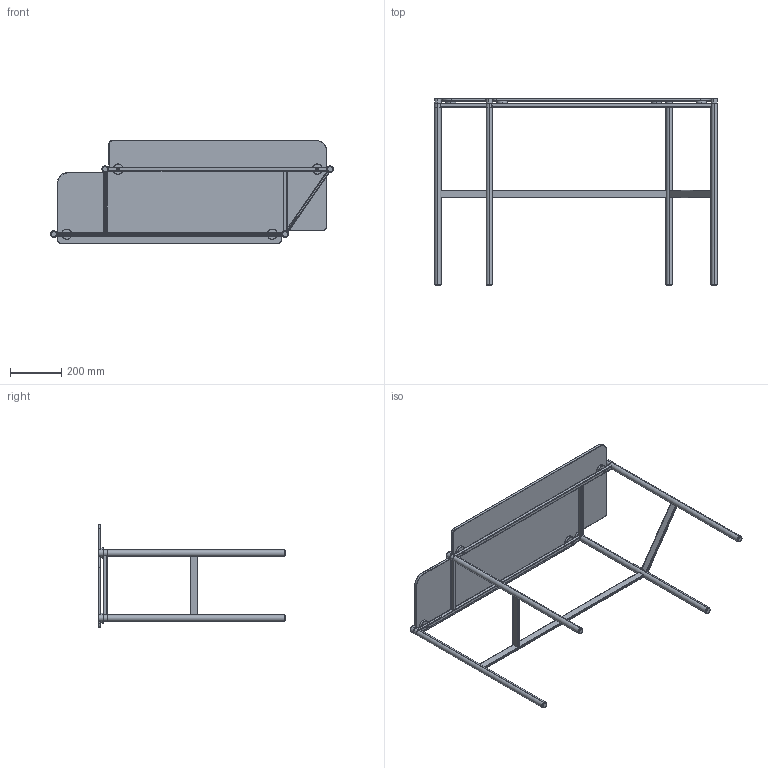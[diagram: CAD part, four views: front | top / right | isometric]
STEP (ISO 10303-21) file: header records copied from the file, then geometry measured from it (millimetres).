
FILE_DESCRIPTION(/* description */ (''),/* implementation_level */ '2;1');
FILE_NAME(/* name */ 'FG52002_GLASS SHELF',/* time_stamp */ '2020-09-29T12:23:56+02:00',/* author */ (''),/* organization */ (''),/* preprocessor_version */ 'ST-DEVELOPER v10',/* originating_system */ '',/* authorisation */ '');
FILE_SCHEMA (('CONFIG_CONTROL_DESIGN'));
Length unit declared in the file: millimetre
Products named in the file (1): 1
Bounding box: 1100.46 x 730 x 400 mm (x, y, z)
Surface area: 1556857.4 mm2 (no closed solid volume)
Topology: 0 solids, 297 shells, 297 faces, 951 edges, 951 vertices
Faces by surface type: bspline 162, plane 135
Entity records: 13309 total; most frequent: CARTESIAN_POINT 7783, ORIENTED_EDGE 951, EDGE_CURVE 951, VERTEX_POINT 951, B_SPLINE_CURVE_WITH_KNOTS 593, EDGE_LOOP 347, SHELL_BASED_SURFACE_MODEL 297, OPEN_SHELL 297
